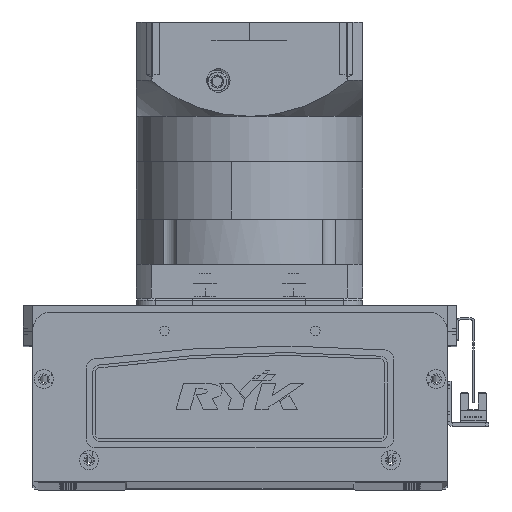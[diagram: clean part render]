
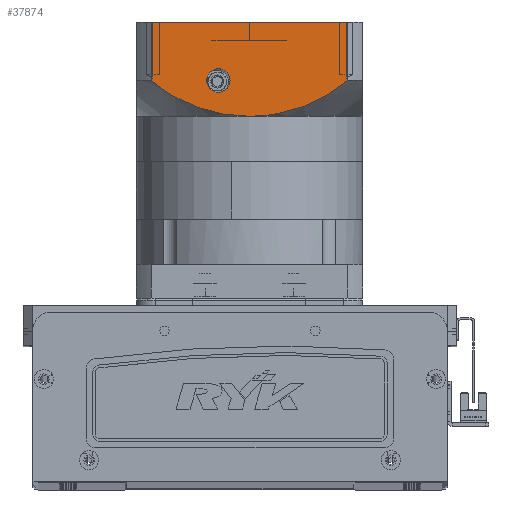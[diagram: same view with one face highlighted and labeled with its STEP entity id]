
A CAD part, top view. The second image highlights one B-rep face of the part: STEP entity #37874.
In plain terms, the highlighted planar face has unit normal (0, 0, 1) as drawn and (0, -1, 0) by its records, which use the part's own axes.
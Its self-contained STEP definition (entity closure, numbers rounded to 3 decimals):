
#1859 = CARTESIAN_POINT ( 'NONE',  ( 44.553, -60., -113.817 ) ) ;
#2534 = CARTESIAN_POINT ( 'NONE',  ( 48.457, -60., -116.522 ) ) ;
#2757 = CARTESIAN_POINT ( 'NONE',  ( 25.577, -60., -104.596 ) ) ;
#3396 = CARTESIAN_POINT ( 'NONE',  ( 16.5, -60., -125.75 ) ) ;
#4578 = ORIENTED_EDGE ( 'NONE', *, *, #12583, .T. ) ;
#5144 = CARTESIAN_POINT ( 'NONE',  ( 52.156, -60., -119.5 ) ) ;
#5850 = ORIENTED_EDGE ( 'NONE', *, *, #12715, .F. ) ;
#5958 = VECTOR ( 'NONE', #10542, 1000. ) ;
#6347 = B_SPLINE_CURVE_WITH_KNOTS ( 'NONE', 3,
 ( #12770, #7513, #49116, #53683, #18032, #54569, #23326, #38261, #2757, #59589, #58895, #64802, #33766, #1859, #33988, #2534, #39145, #18257 ),
 .UNSPECIFIED., .F., .F.,
 ( 4, 2, 2, 2, 2, 2, 2, 2, 4 ),
 ( 0., 0.014, 0.018, 0.021, 0.028, 0.042, 0.046, 0.05, 0.057 ),
 .UNSPECIFIED. ) ;
#7513 = CARTESIAN_POINT ( 'NONE',  ( 4.753, -60., -100.5 ) ) ;
#8369 = CARTESIAN_POINT ( 'NONE',  ( -35.342, -60., -108.587 ) ) ;
#8386 = EDGE_CURVE ( 'NONE', #57678, #66235, #13660, .T. ) ;
#8834 = CARTESIAN_POINT ( 'NONE',  ( -4.747, -60., -100.604 ) ) ;
#9713 = VERTEX_POINT ( 'NONE', #34683 ) ;
#10542 = DIRECTION ( 'NONE',  ( 0., 0., 1. ) ) ;
#12359 = CARTESIAN_POINT ( 'NONE',  ( -52.156, -60., -150.5 ) ) ;
#12583 = EDGE_CURVE ( 'NONE', #66235, #57678, #18007, .T. ) ;
#12715 = EDGE_CURVE ( 'NONE', #9713, #24456, #46110, .T. ) ;
#12745 = EDGE_CURVE ( 'NONE', #13664, #49473, #41548, .T. ) ;
#12770 = CARTESIAN_POINT ( 'NONE',  ( 0., -60., -100.5 ) ) ;
#13660 = CIRCLE ( 'NONE', #19207, 6.25 ) ;
#13664 = VERTEX_POINT ( 'NONE', #12359 ) ;
#14093 = CARTESIAN_POINT ( 'NONE',  ( -36.409, -60., -109.113 ) ) ;
#18007 = CIRCLE ( 'NONE', #28248, 6.25 ) ;
#18032 = CARTESIAN_POINT ( 'NONE',  ( 16.426, -60., -102.169 ) ) ;
#18257 = CARTESIAN_POINT ( 'NONE',  ( 52.156, -60., -119.5 ) ) ;
#18690 = CARTESIAN_POINT ( 'NONE',  ( -12.993, -60., -101.537 ) ) ;
#18719 = EDGE_CURVE ( 'NONE', #13664, #9713, #45827, .T. ) ;
#18905 = DIRECTION ( 'NONE',  ( 1., 0., 0. ) ) ;
#19145 = CARTESIAN_POINT ( 'NONE',  ( -48.52, -60., -116.438 ) ) ;
#19207 = AXIS2_PLACEMENT_3D ( 'NONE', #46713, #26366, #20652 ) ;
#20652 = DIRECTION ( 'NONE',  ( 0., 0., -1. ) ) ;
#21206 = FACE_BOUND ( 'NONE', #59879, .T. ) ;
#21985 = DIRECTION ( 'NONE',  ( 0., 1., 0. ) ) ;
#23326 = CARTESIAN_POINT ( 'NONE',  ( 19.894, -60., -102.964 ) ) ;
#23835 = PLANE ( 'NONE',  #47010 ) ;
#23976 = CARTESIAN_POINT ( 'NONE',  ( -8.294, -60., -100.916 ) ) ;
#24456 = VERTEX_POINT ( 'NONE', #33949 ) ;
#24624 = CARTESIAN_POINT ( 'NONE',  ( -52.156, -60., -97.5 ) ) ;
#26083 = EDGE_CURVE ( 'NONE', #49473, #65038, #32115, .T. ) ;
#26145 = FACE_OUTER_BOUND ( 'NONE', #66799, .T. ) ;
#26366 = DIRECTION ( 'NONE',  ( 0., 1., 0. ) ) ;
#27701 = DIRECTION ( 'NONE',  ( 0., 0., -1. ) ) ;
#28167 = CARTESIAN_POINT ( 'NONE',  ( -60., -60., -150.5 ) ) ;
#28248 = AXIS2_PLACEMENT_3D ( 'NONE', #63485, #21985, #27701 ) ;
#29199 = CARTESIAN_POINT ( 'NONE',  ( -2.376, -60., -100.5 ) ) ;
#29439 = CARTESIAN_POINT ( 'NONE',  ( -52.156, -60., -119.5 ) ) ;
#32115 = LINE ( 'NONE', #40160, #5958 ) ;
#32479 = ORIENTED_EDGE ( 'NONE', *, *, #8386, .T. ) ;
#33766 = CARTESIAN_POINT ( 'NONE',  ( 42.555, -60., -112.543 ) ) ;
#33937 = CARTESIAN_POINT ( 'NONE',  ( -11.825, -60., -101.356 ) ) ;
#33949 = CARTESIAN_POINT ( 'NONE',  ( 0., -60., -100.5 ) ) ;
#33988 = CARTESIAN_POINT ( 'NONE',  ( 45.542, -60., -114.478 ) ) ;
#34683 = CARTESIAN_POINT ( 'NONE',  ( -52.156, -60., -119.5 ) ) ;
#37874 = ADVANCED_FACE ( 'NONE', ( #26145, #21206 ), #23835, .T. ) ;
#38261 = CARTESIAN_POINT ( 'NONE',  ( 23.329, -60., -103.886 ) ) ;
#39145 = CARTESIAN_POINT ( 'NONE',  ( 50.338, -60., -117.969 ) ) ;
#40008 = CARTESIAN_POINT ( 'NONE',  ( -38.51, -60., -110.207 ) ) ;
#40160 = CARTESIAN_POINT ( 'NONE',  ( 52.156, -60., -150.5 ) ) ;
#41548 = LINE ( 'NONE', #44337, #48813 ) ;
#43144 = ORIENTED_EDGE ( 'NONE', *, *, #26083, .T. ) ;
#43166 = CARTESIAN_POINT ( 'NONE',  ( 16.5, -60., -113.25 ) ) ;
#43394 = VECTOR ( 'NONE', #65655, 1000. ) ;
#43465 = ORIENTED_EDGE ( 'NONE', *, *, #65692, .F. ) ;
#43806 = ORIENTED_EDGE ( 'NONE', *, *, #18719, .F. ) ;
#44337 = CARTESIAN_POINT ( 'NONE',  ( -60., -60., -150.5 ) ) ;
#44650 = DIRECTION ( 'NONE',  ( 0., -1., 0. ) ) ;
#45827 = LINE ( 'NONE', #24624, #43394 ) ;
#46110 = B_SPLINE_CURVE_WITH_KNOTS ( 'NONE', 3,
 ( #29439, #19145, #60456, #64992, #40008, #14093, #8369, #65670, #55433, #49745, #50413, #18690, #33937, #60674, #23976, #8834, #29199, #65223 ),
 .UNSPECIFIED., .F., .F.,
 ( 4, 2, 2, 2, 2, 2, 2, 2, 4 ),
 ( 0., 0.014, 0.018, 0.021, 0.028, 0.042, 0.046, 0.05, 0.057 ),
 .UNSPECIFIED. ) ;
#46713 = CARTESIAN_POINT ( 'NONE',  ( 16.5, -60., -119.5 ) ) ;
#47010 = AXIS2_PLACEMENT_3D ( 'NONE', #28167, #44650, #49837 ) ;
#48722 = CARTESIAN_POINT ( 'NONE',  ( 52.156, -60., -150.5 ) ) ;
#48813 = VECTOR ( 'NONE', #18905, 1000. ) ;
#49116 = CARTESIAN_POINT ( 'NONE',  ( 9.454, -60., -100.914 ) ) ;
#49473 = VERTEX_POINT ( 'NONE', #48722 ) ;
#49745 = CARTESIAN_POINT ( 'NONE',  ( -23.319, -60., -103.777 ) ) ;
#49837 = DIRECTION ( 'NONE',  ( 1., 0., 0. ) ) ;
#50328 = ORIENTED_EDGE ( 'NONE', *, *, #12745, .T. ) ;
#50413 = CARTESIAN_POINT ( 'NONE',  ( -18.792, -60., -102.562 ) ) ;
#53683 = CARTESIAN_POINT ( 'NONE',  ( 15.267, -60., -101.938 ) ) ;
#54569 = CARTESIAN_POINT ( 'NONE',  ( 18.739, -60., -102.681 ) ) ;
#55433 = CARTESIAN_POINT ( 'NONE',  ( -29.939, -60., -106.183 ) ) ;
#57678 = VERTEX_POINT ( 'NONE', #3396 ) ;
#58895 = CARTESIAN_POINT ( 'NONE',  ( 36.444, -60., -108.986 ) ) ;
#59589 = CARTESIAN_POINT ( 'NONE',  ( 32.196, -60., -107.007 ) ) ;
#59879 = EDGE_LOOP ( 'NONE', ( #32479, #4578 ) ) ;
#60456 = CARTESIAN_POINT ( 'NONE',  ( -44.656, -60., -113.73 ) ) ;
#60674 = CARTESIAN_POINT ( 'NONE',  ( -9.477, -60., -101.046 ) ) ;
#63485 = CARTESIAN_POINT ( 'NONE',  ( 16.5, -60., -119.5 ) ) ;
#64802 = CARTESIAN_POINT ( 'NONE',  ( 41.545, -60., -111.931 ) ) ;
#64992 = CARTESIAN_POINT ( 'NONE',  ( -39.546, -60., -110.776 ) ) ;
#65038 = VERTEX_POINT ( 'NONE', #5144 ) ;
#65223 = CARTESIAN_POINT ( 'NONE',  ( 0., -60., -100.5 ) ) ;
#65655 = DIRECTION ( 'NONE',  ( 0., 0., 1. ) ) ;
#65670 = CARTESIAN_POINT ( 'NONE',  ( -32.118, -60., -107.084 ) ) ;
#65692 = EDGE_CURVE ( 'NONE', #24456, #65038, #6347, .T. ) ;
#66235 = VERTEX_POINT ( 'NONE', #43166 ) ;
#66799 = EDGE_LOOP ( 'NONE', ( #43806, #50328, #43144, #43465, #5850 ) ) ;
